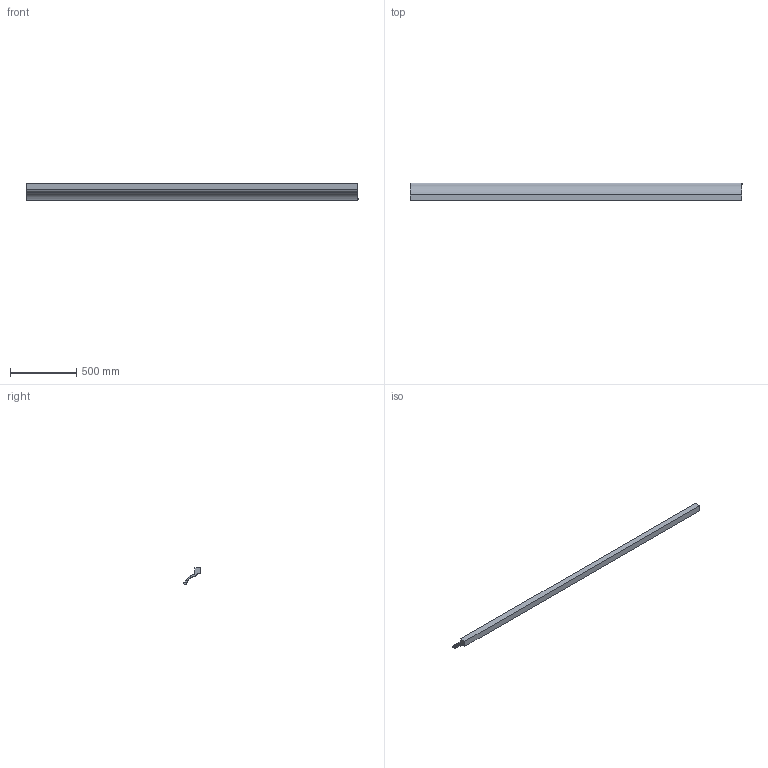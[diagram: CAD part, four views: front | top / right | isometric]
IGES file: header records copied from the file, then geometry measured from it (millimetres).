
Start section: SolidWorks IGES file using analytic representation for surfaces
Global section: file name: C:\Users\Stagiaire\Desktop\Rendu 3D\CORNICHE\193 CORNICHE\193_CORNICHE.IGS; native system: SolidWorks 2014; preprocessor: SolidWorks 2014; author: Stagiaire; date: 140915.092900; units: millimetre
Bounding box: 2500 x 135 x 125 mm (x, y, z)
Surface area: 1100644.2 mm2 (no closed solid volume)
Topology: 0 solids, 0 shells, 14 faces, 158 edges, 158 vertices
Faces by surface type: bspline 9, revolution 5
